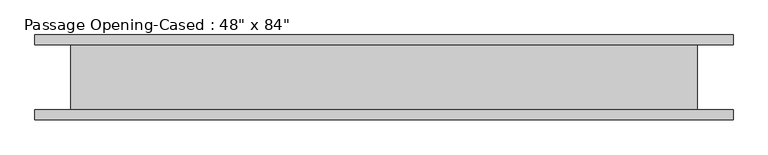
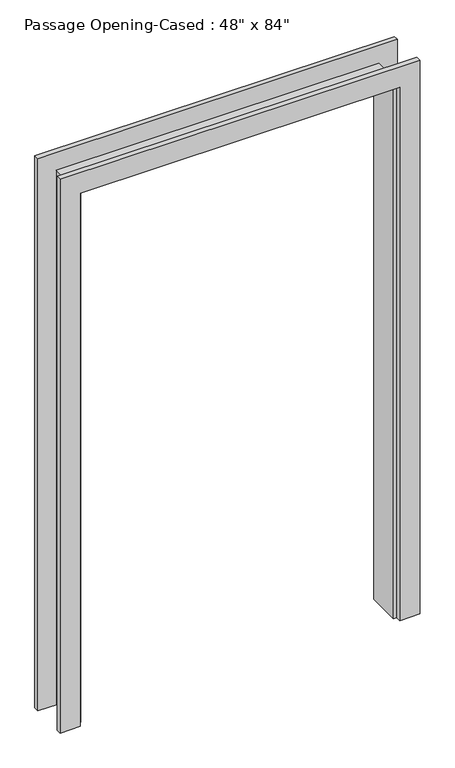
"""IFC4 building model written with IfcOpenShell, lengths in millimetres: proxy geometry."""

from ifc_helpers import new_model, si_unit, frame, origin, place, context, project, spatial, polyline, outline, extrude, faceted_brep, source, transform, mapped, element, save


def proxy_d58c73d0(model_context):
    return source(origin(), model_context, "Body", "SolidModel", [
        extrude(outline(polyline([(0.0, -611.4386567), (2127.25, -611.4386567), (2127.25, 595.0613433), (0.0, 595.0613433), (0.0, 671.2613433), (2203.45, 671.2613433), (2203.45, -687.6386567), (0.0, -687.6386567), (0.0, -611.4386567)])), frame((0.0, 63.5, 0.0), z_axis=(0.0, 1.0, 0.0), x_axis=(0.0, 0.0, 1.0)), (0.0, 0.0, 1.0), 19.05),
        extrude(outline(polyline([(0.0, 671.2613433), (2209.8, 671.2613433), (2209.8, -687.6386567), (0.0, -687.6386567), (0.0, -611.4386567), (2127.25, -611.4386567), (2127.25, 595.0613433), (0.0, 595.0613433), (0.0, 671.2613433)])), frame((0.0, -82.55, 0.0), z_axis=(0.0, 1.0, 0.0), x_axis=(0.0, 0.0, 1.0)), (0.0, 0.0, 1.0), 19.05),
        faceted_brep([(582.3613433, -63.5, 0.0), (582.3613433, 63.5, 0.0), (601.4113433, 63.5, 0.0), (601.4113433, -63.5, 0.0), (601.4113433, -63.5, 2133.6), (582.3613433, -63.5, 2114.55), (601.4113433, 63.5, 2133.6), (582.3613433, 63.5, 2114.55), (-617.7886567, -63.5, 2133.6), (-598.7386567, -63.5, 2114.55), (-617.7886567, 63.5, 2133.6), (-598.7386567, 63.5, 2114.55), (-598.7386567, -63.5, 0.0), (-617.7886567, -63.5, 0.0), (-617.7886567, 63.5, 0.0), (-598.7386567, 63.5, 0.0)], [[[0, 1, 2, 3]], [[3, 4, 5, 0]], [[2, 6, 4, 3]], [[1, 7, 6, 2]], [[0, 5, 7, 1]], [[4, 8, 9, 5]], [[6, 10, 8, 4]], [[7, 11, 10, 6]], [[5, 9, 11, 7]], [[12, 13, 14, 15]], [[8, 13, 12, 9]], [[10, 14, 13, 8]], [[11, 15, 14, 10]], [[9, 12, 15, 11]]]),
    ])


if __name__ == "__main__":
    model = new_model("IFC4")
    model_context = context("Model", 3, world=origin())
    ifc_project = project(units=[si_unit("LENGTHUNIT", "METRE", prefix="MILLI")], contexts=[model_context])
    site = spatial("IfcSite", under=ifc_project)
    building = spatial("IfcBuilding", under=site)
    placement = place(None, origin())
    proxy_shape = proxy_d58c73d0(model_context)
    element("IfcBuildingElementProxy", 1, Name="Passage Opening-Cased : 48\" x 84\"", ObjectType="Passage Opening-Cased : 48\" x 84\"", at=placement, inside=building, context=model_context, shape_type="MappedRepresentation", body=[
        mapped(proxy_shape, transform((0.0, 0.0, 0.0), x_axis=(1.0, 0.0, 0.0), y_axis=(0.0, 1.0, 0.0), z_axis=(0.0, 0.0, 1.0))),
    ])
    save(model, "model.ifc")
